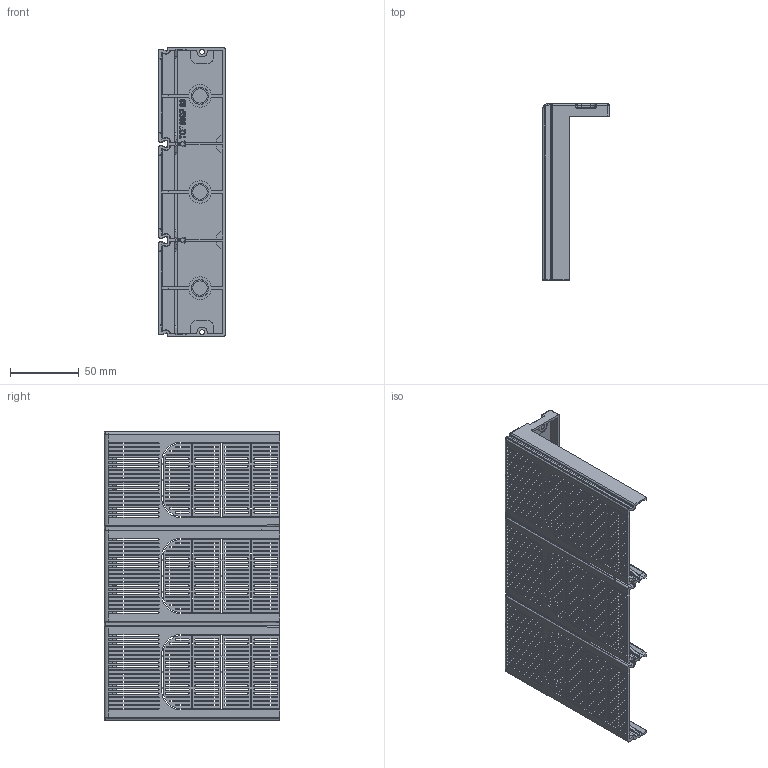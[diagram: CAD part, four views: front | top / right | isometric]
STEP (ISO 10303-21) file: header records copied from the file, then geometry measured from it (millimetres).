
FILE_DESCRIPTION((''),'2;1');
FILE_NAME('U8_3P_SHORT_TERMINAL_COVER','2018-06-04T',('HHI'),(''),'PRO/ENGINEER BY PARAMETRIC TECHNOLOGY CORPORATION, 2012453','PRO/ENGINEER BY PARAMETRIC TECHNOLOGY CORPORATION, 2012453','');
FILE_SCHEMA(('CONFIG_CONTROL_DESIGN'));
Products named in the file (1): U8_3P_SHORT_TERMINAL_COVER
Bounding box: 48.3 x 128 x 210 mm (x, y, z)
Volume: 94824.1 mm3; surface area: 126768.6 mm2
Topology: 1 solids, 1 shells, 2226 faces, 6854 edges, 4455 vertices
Faces by surface type: plane 1157, cylinder 785, extrusion 146, torus 58, bspline 48, cone 18, sphere 14
Entity records: 80265 total; most frequent: CARTESIAN_POINT 17255, ORIENTED_EDGE 13696, DIRECTION 12400, EDGE_CURVE 6848, VECTOR 4816, LINE 4670, VERTEX_POINT 4454, AXIS2_PLACEMENT_3D 3792
